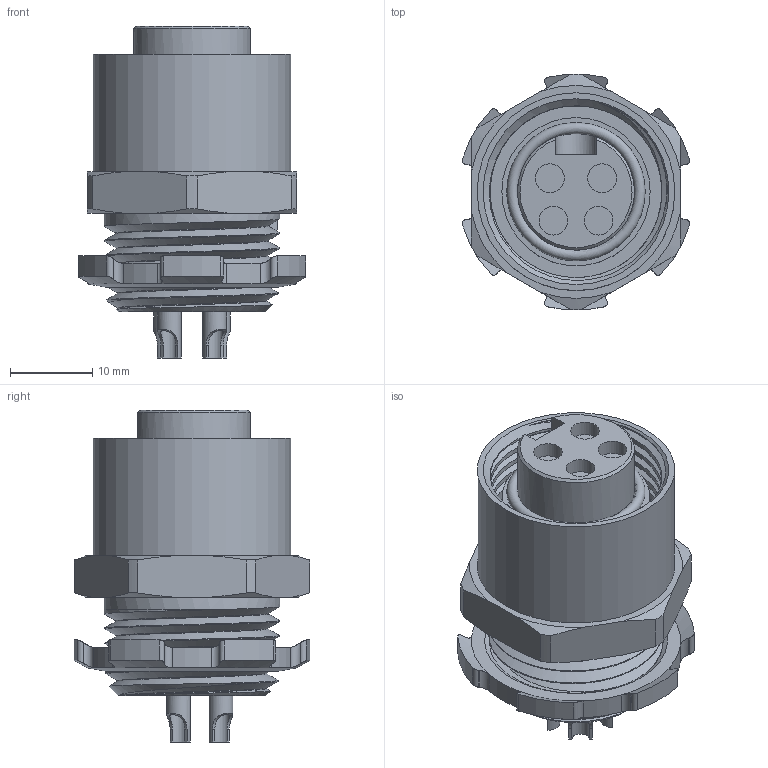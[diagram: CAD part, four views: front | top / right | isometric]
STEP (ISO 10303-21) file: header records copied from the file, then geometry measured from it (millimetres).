
FILE_DESCRIPTION (( 'STEP AP203' ), '1' );
FILE_NAME ('CM03A-PR4S-S(R1).STEP', '2022-04-05T08:12:32', ( '' ), ( '' ), 'SwSTEP 2.0', 'SolidWorks 2018', '' );
FILE_SCHEMA (( 'CONFIG_CONTROL_DESIGN' ));
Length unit declared in the file: millimetre
Products named in the file (1): CM03A-PR4S-S(R1)
Bounding box: 27.61 x 28.61 x 40.3 mm (x, y, z)
Volume: 12964.7 mm3; surface area: 6110.6 mm2
Topology: 1 solids, 1 shells, 167 faces, 431 edges, 276 vertices
Faces by surface type: cylinder 69, plane 50, cone 35, bspline 12, torus 1
Full cylindrical faces by diameter (mm): 2.1 x4, 2.9 x4, 3.5 x4, 14.2 x1, 18 x1, 20.86 x4, 21.34 x1, 24 x1
Entity records: 10578 total; most frequent: CARTESIAN_POINT 7007, ORIENTED_EDGE 752, DIRECTION 637, EDGE_CURVE 376, AXIS2_PLACEMENT_3D 260, VERTEX_POINT 251, EDGE_LOOP 201, FACE_OUTER_BOUND 180
